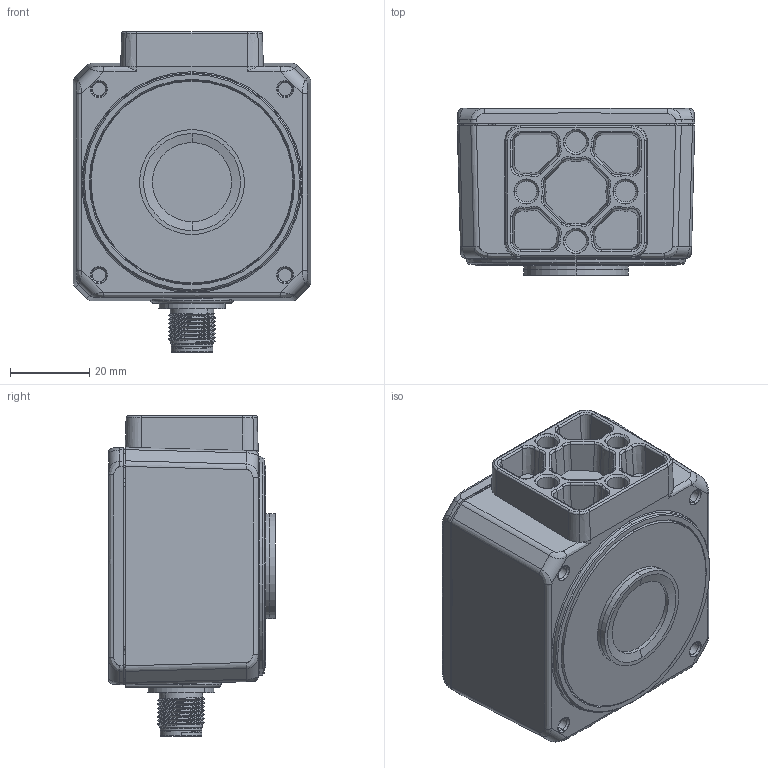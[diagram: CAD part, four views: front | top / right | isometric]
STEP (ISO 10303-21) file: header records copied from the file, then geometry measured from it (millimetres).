
FILE_DESCRIPTION((''),'2;1');
FILE_NAME('SC2000A-AGV-3TH-TOP-ASSY_ASM','2024-05-07T11:00:42',('huguozhe'),(''),'CREO PARAMETRIC BY PTC INC, 2020044','CREO PARAMETRIC BY PTC INC, 2020044','');
FILE_SCHEMA(('AUTOMOTIVE_DESIGN { 1 0 10303 214 1 1 1 1 }'));
Products named in the file (22): DE-13-000195; SC2000A-CASE-UP-ASM_ASM; DE-13-000168; SC2000A-CASE-DOWN-ASM_ASM; DE-17-000258; SC2000A-CASE-ASM_ASM; M12A-12PMMS-SH8BXX_2; LUOMU-M12; M12A-IO-ASSY_ASM; SC-PM3X7_5T10-L4-SUS304-BZN; D-01-35-26-0837; SC-PSFM2X6-NI-GB9074_8; ST-S4X6_5-M2X4-F2X4-CU; 102203372_1_1; 102203372_1_2; 102203372_1_3; 102203372_1_4; 102203372_1_5; 102203372_1_6; 102203372_1_ASM; 102203372_ASM; SC2000A-AGV-3TH-TOP-ASSY_ASM
Assembly tree (33 placements, depth 4):
  SC2000A-AGV-3TH-TOP-ASSY_ASM
    SC2000A-CASE-ASM_ASM
      SC2000A-CASE-UP-ASM_ASM
        DE-13-000195
      SC2000A-CASE-DOWN-ASM_ASM
        DE-13-000168
      DE-17-000258
    M12A-IO-ASSY_ASM
      M12A-12PMMS-SH8BXX_2
      LUOMU-M12
    SC-PM3X7_5T10-L4-SUS304-BZN  x4
    D-01-35-26-0837  x3
    SC-PSFM2X6-NI-GB9074_8  x8
    ST-S4X6_5-M2X4-F2X4-CU
    102203372_ASM
      102203372_1_ASM
        102203372_1_1
        102203372_1_2
        102203372_1_3
        102203372_1_4
        102203372_1_5
        102203372_1_6
Bounding box: 60 x 42.15 x 81 mm (x, y, z)
Volume: 136780.2 mm3; surface area: 50283.1 mm2
Topology: 27 solids, 56 shells, 2254 faces, 5779 edges, 3697 vertices
Faces by surface type: plane 851, cylinder 753, bspline 211, cone 195, extrusion 121, torus 99, sphere 24
Entity records: 78237 total; most frequent: CARTESIAN_POINT 31123, ORIENTED_EDGE 8716, DIRECTION 7745, EDGE_CURVE 4402, VERTEX_POINT 2871, AXIS2_PLACEMENT_3D 2823, VECTOR 2099, LINE 1996
